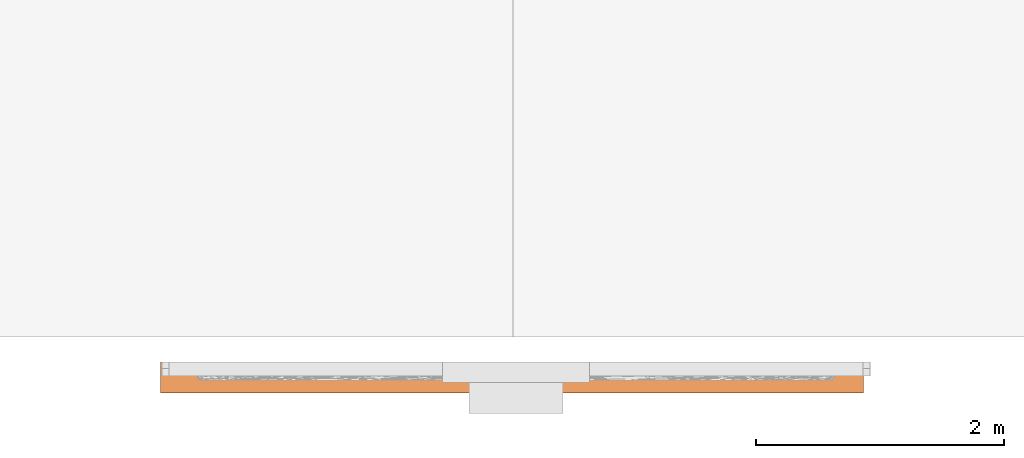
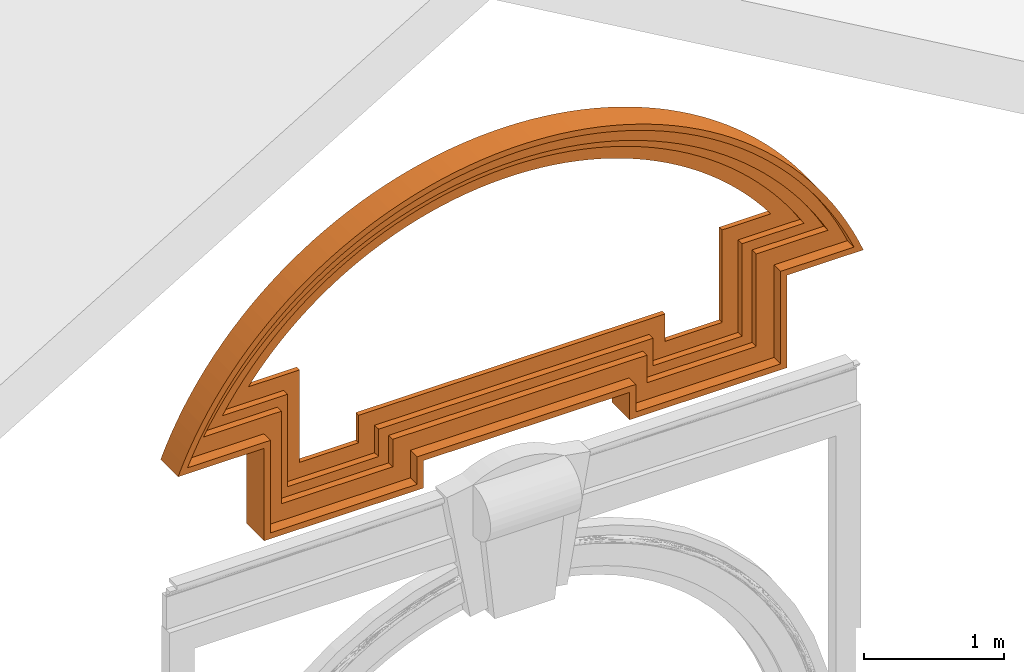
# One storey, part 2 of 4: 1 proxy.
"""IFC2X3 building model written with IfcOpenShell, lengths in metres."""

from ifc_helpers import new_model, entity, si_unit, converted_unit, derived_unit, direction, frame, frame_2d, origin, place, context, subcontext, project, spatial, polyline, circle_curve, parameter, trimmed, segment, composite_curve, outline, extrude, source, transform, mapped, material, type_object, type_shapes, element, save


model = new_model("IFC2X3")

# Units and contexts
model_context = context("Model", 3, precision=1e-05, world=origin(), true_north=direction((6.12303176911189e-17, 1.0)))
body_context = subcontext(model_context, "Body", "Model", "MODEL_VIEW")
ifc_project = project(units=[si_unit("LENGTHUNIT", "METRE"), si_unit("AREAUNIT", "SQUARE_METRE"), si_unit("VOLUMEUNIT", "CUBIC_METRE"), converted_unit("PLANEANGLEUNIT", "DEGREE", entity("IfcRatioMeasure", 0.0174532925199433), si_unit("PLANEANGLEUNIT", "RADIAN"), dimensions=[0, 0, 0, 0, 0, 0, 0]), si_unit("MASSUNIT", "GRAM", prefix="KILO"), derived_unit("MASSDENSITYUNIT", [(si_unit("MASSUNIT", "GRAM", prefix="KILO"), 1), (si_unit("LENGTHUNIT", "METRE"), -3)]), si_unit("TIMEUNIT", "SECOND"), si_unit("FREQUENCYUNIT", "HERTZ"), si_unit("THERMODYNAMICTEMPERATUREUNIT", "DEGREE_CELSIUS"), derived_unit("THERMALTRANSMITTANCEUNIT", [(si_unit("MASSUNIT", "GRAM", prefix="KILO"), 1), (si_unit("THERMODYNAMICTEMPERATUREUNIT", "KELVIN"), -1), (si_unit("TIMEUNIT", "SECOND"), -3)]), derived_unit("VOLUMETRICFLOWRATEUNIT", [(si_unit("LENGTHUNIT", "METRE"), 3), (si_unit("TIMEUNIT", "SECOND"), -1)]), si_unit("ELECTRICCURRENTUNIT", "AMPERE"), si_unit("ELECTRICVOLTAGEUNIT", "VOLT"), si_unit("POWERUNIT", "WATT"), si_unit("FORCEUNIT", "NEWTON", prefix="KILO"), si_unit("ILLUMINANCEUNIT", "LUX"), si_unit("LUMINOUSFLUXUNIT", "LUMEN"), si_unit("LUMINOUSINTENSITYUNIT", "CANDELA"), derived_unit("USERDEFINED", [(si_unit("MASSUNIT", "GRAM", prefix="KILO"), -1), (si_unit("LENGTHUNIT", "METRE"), -2), (si_unit("TIMEUNIT", "SECOND"), 3), (si_unit("LUMINOUSFLUXUNIT", "LUMEN"), 1)]), derived_unit("LINEARVELOCITYUNIT", [(si_unit("LENGTHUNIT", "METRE"), 1), (si_unit("TIMEUNIT", "SECOND"), -1)]), si_unit("PRESSUREUNIT", "PASCAL"), derived_unit("USERDEFINED", [(si_unit("LENGTHUNIT", "METRE"), -2), (si_unit("MASSUNIT", "GRAM", prefix="KILO"), 1), (si_unit("TIMEUNIT", "SECOND"), -2)])], contexts=[model_context])

# Site, building, storey
site_placement = place(None, origin())
site = spatial("IfcSite", under=ifc_project, at=site_placement, Name="Default", CompositionType="ELEMENT")
building_placement = place(site_placement, origin())
building = spatial("IfcBuilding", under=site, at=building_placement, CompositionType="ELEMENT")
storey_placement = place(building_placement, frame((0.0, 0.0, 23.3294157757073)))
storey = spatial("IfcBuildingStorey", under=building, at=storey_placement, Name="Livello 3", CompositionType="ELEMENT", Elevation=23.3294157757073)

# Proxy
ifc_material = material(Name="Piperno")
building_element_proxy_type = type_object("IfcBuildingElementProxyType", Name="Timpano", PredefinedType="NOTDEFINED", material=ifc_material)
shared_shape = source(origin(), body_context, "Body", "SweptSolid", [
    extrude(outline(composite_curve([segment(polyline([(-0.371411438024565, 1.87878861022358), (-0.371422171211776, 1.12584482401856)]), True, "CONTINUOUS"), segment(polyline([(-0.371422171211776, 1.12584482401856), (-0.131227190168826, 1.12584482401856)]), True, "CONTINUOUS"), segment(polyline([(-0.131227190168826, 1.12584482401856), (-0.131259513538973, -1.1416718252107)]), True, "CONTINUOUS"), segment(polyline([(-0.131259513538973, -1.1416718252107), (-0.371454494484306, -1.14166497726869)]), True, "CONTINUOUS"), segment(polyline([(-0.371454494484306, -1.14166497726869), (-0.371464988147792, -1.87780593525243)]), True, "CONTINUOUS"), segment(polyline([(-0.371464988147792, -1.87780593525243), (0.43703307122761, -1.87782898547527)]), True, "CONTINUOUS"), segment(polyline([(0.43703307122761, -1.87782898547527), (0.437025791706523, -2.38849464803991)]), True, "CONTINUOUS"), segment(trimmed(circle_curve(frame_2d((-1.03535011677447, 0.0148734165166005), x_axis=(0.522417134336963, 0.85269005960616)), 2.81852246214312), [parameter(242.987422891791)], [parameter(0.0)], True, "PARAMETER"), True, "CONTINUOUS"), segment(polyline([(0.437094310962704, 2.41819950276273), (0.4370866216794, 1.87878861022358)]), True, "CONTINUOUS"), segment(polyline([(0.4370866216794, 1.87878861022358), (-0.371411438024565, 1.87878861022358)]), True, "CONTINUOUS")], self_intersect=False), holes=[composite_curve([segment(polyline([(0.00146077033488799, 1.25853089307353), (-0.238734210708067, 1.25853089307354)]), True, "CONTINUOUS"), segment(polyline([(-0.238734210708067, 1.25853089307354), (-0.238727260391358, 1.74610254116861)]), True, "CONTINUOUS"), segment(polyline([(-0.238727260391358, 1.74610254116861), (0.569770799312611, 1.7461025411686)]), True, "CONTINUOUS"), segment(polyline([(0.569770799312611, 1.7461025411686), (0.569776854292, 2.17086538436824)]), True, "CONTINUOUS"), segment(trimmed(circle_curve(frame_2d((-1.04727540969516, 0.0114047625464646), x_axis=(0.599396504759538, 0.800452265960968)), 2.69780062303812), [parameter(253.651741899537)], [parameter(0.0)], True, "PARAMETER"), False, "CONTINUOUS"), segment(polyline([(0.569715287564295, -2.14810196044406), (0.569721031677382, -1.7451466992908)]), True, "CONTINUOUS"), segment(polyline([(0.569721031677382, -1.7451466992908), (-0.238777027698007, -1.74512364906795)]), True, "CONTINUOUS"), segment(polyline([(-0.238777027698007, -1.74512364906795), (-0.238770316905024, -1.27435482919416)]), True, "CONTINUOUS"), segment(polyline([(-0.238770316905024, -1.27435482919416), (0.00142466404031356, -1.27436167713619)]), True, "CONTINUOUS"), segment(polyline([(0.00142466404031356, -1.27436167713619), (0.00146077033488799, 1.25853089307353)]), True, "CONTINUOUS")], self_intersect=False)]), frame((-0.00791537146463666, -0.0408915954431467, 0.361031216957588), z_axis=(0.0, -1.0, 0.0), x_axis=(-1.42549648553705e-05, 0.0, 1.0)), (0.0, 0.0, -1.0), 0.0408915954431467),
    extrude(outline(composite_curve([segment(polyline([(-0.371410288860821, 1.95940359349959), (-0.371423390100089, 1.04033859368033)]), True, "CONTINUOUS"), segment(polyline([(-0.371423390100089, 1.04033859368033), (-0.131228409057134, 1.04033859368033)]), True, "CONTINUOUS"), segment(polyline([(-0.131228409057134, 1.04033859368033), (-0.131258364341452, -1.06105447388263)]), True, "CONTINUOUS"), segment(polyline([(-0.131258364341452, -1.06105447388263), (-0.371453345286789, -1.06104762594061)]), True, "CONTINUOUS"), segment(polyline([(-0.371453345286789, -1.06104762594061), (-0.371466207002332, -1.9633097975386)]), True, "CONTINUOUS"), segment(polyline([(-0.371466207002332, -1.9633097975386), (0.437031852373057, -1.96333284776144)]), True, "CONTINUOUS"), segment(polyline([(0.437031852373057, -1.96333284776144), (0.437023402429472, -2.55610481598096)]), True, "CONTINUOUS"), segment(trimmed(circle_curve(frame_2d((-1.00852043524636, 0.0246507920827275), x_axis=(0.488710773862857, 0.872445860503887)), 2.95802239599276), [parameter(238.510125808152)], [parameter(360.0)], True, "PARAMETER"), True, "CONTINUOUS"), segment(polyline([(0.437096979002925, 2.6053651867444), (0.437087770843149, 1.95940359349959)]), True, "CONTINUOUS"), segment(polyline([(0.437087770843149, 1.95940359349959), (-0.371410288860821, 1.95940359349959)]), True, "CONTINUOUS")], self_intersect=False), holes=[composite_curve([segment(polyline([(-0.288350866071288, 1.87634298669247), (0.520147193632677, 1.87634298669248)]), True, "CONTINUOUS"), segment(polyline([(0.520147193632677, 1.87634298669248), (0.520154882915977, 2.41575387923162)]), True, "CONTINUOUS"), segment(trimmed(circle_curve(frame_2d((-0.95228954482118, 0.0124277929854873), x_axis=(0.522417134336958, 0.852690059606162)), 2.81852246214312), [parameter(242.987422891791)], [parameter(0.0)], True, "PARAMETER"), False, "CONTINUOUS"), segment(polyline([(0.520086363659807, -2.39094027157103), (0.520093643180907, -1.88027460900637)]), True, "CONTINUOUS"), segment(polyline([(0.520093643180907, -1.88027460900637), (-0.288404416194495, -1.88025155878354)]), True, "CONTINUOUS"), segment(polyline([(-0.288404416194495, -1.88025155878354), (-0.288393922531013, -1.1441106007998)]), True, "CONTINUOUS"), segment(polyline([(-0.288393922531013, -1.1441106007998), (-0.0481989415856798, -1.14411744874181)]), True, "CONTINUOUS"), segment(polyline([(-0.0481989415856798, -1.14411744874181), (-0.048166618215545, 1.12339920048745)]), True, "CONTINUOUS"), segment(polyline([(-0.048166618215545, 1.12339920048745), (-0.288361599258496, 1.12339920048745)]), True, "CONTINUOUS"), segment(polyline([(-0.288361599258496, 1.12339920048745), (-0.288350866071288, 1.87634298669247)]), True, "CONTINUOUS")], self_intersect=False)]), frame((-0.0103598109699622, -0.0971082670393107, 0.277970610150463), z_axis=(0.0, -1.0, 0.0), x_axis=(-1.4254964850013e-05, 0.0, 1.0)), (0.0, 0.0, -1.0), 0.0971082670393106),
    extrude(outline(composite_curve([segment(polyline([(-0.371408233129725, 2.10361517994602), (-0.37142551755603, 0.891095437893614)]), True, "CONTINUOUS"), segment(polyline([(-0.37142551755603, 0.891095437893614), (-0.131230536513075, 0.891095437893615)]), True, "CONTINUOUS"), segment(polyline([(-0.131230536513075, 0.891095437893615), (-0.131256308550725, -0.916838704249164)]), True, "CONTINUOUS"), segment(polyline([(-0.131256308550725, -0.916838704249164), (-0.371451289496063, -0.916831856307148)]), True, "CONTINUOUS"), segment(polyline([(-0.371451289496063, -0.916831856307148), (-0.371468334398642, -2.11254877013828)]), True, "CONTINUOUS"), segment(polyline([(-0.371468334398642, -2.11254877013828), (0.437029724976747, -2.11257182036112)]), True, "CONTINUOUS"), segment(polyline([(0.437029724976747, -2.11257182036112), (0.437021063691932, -2.7201695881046)]), True, "CONTINUOUS"), segment(trimmed(circle_curve(frame_2d((-0.761753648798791, 0.0347020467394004), x_axis=(0.399033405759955, 0.916936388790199)), 3.00439320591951), [parameter(227.033898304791)], [parameter(5.08888749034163e-14)], True, "PARAMETER"), True, "CONTINUOUS"), segment(polyline([(0.437099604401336, 2.78953950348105), (0.437089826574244, 2.10361517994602)]), True, "CONTINUOUS"), segment(polyline([(0.437089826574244, 2.10361517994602), (-0.371408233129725, 2.10361517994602)]), True, "CONTINUOUS")], self_intersect=False), holes=[composite_curve([segment(polyline([(-0.224682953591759, 1.95688780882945), (0.583815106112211, 1.95688780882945)]), True, "CONTINUOUS"), segment(polyline([(0.583815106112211, 1.95688780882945), (0.583824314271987, 2.60284940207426)]), True, "CONTINUOUS"), segment(trimmed(circle_curve(frame_2d((-0.861793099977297, 0.0221350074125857), x_axis=(0.488710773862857, 0.872445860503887)), 2.95802239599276), [parameter(238.510125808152)], [parameter(0.0)], True, "PARAMETER"), False, "CONTINUOUS"), segment(polyline([(0.583750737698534, -2.5586206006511), (0.583759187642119, -1.96584863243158)]), True, "CONTINUOUS"), segment(polyline([(0.583759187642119, -1.96584863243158), (-0.224738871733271, -1.96582558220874)]), True, "CONTINUOUS"), segment(polyline([(-0.224738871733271, -1.96582558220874), (-0.224726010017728, -1.06356341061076)]), True, "CONTINUOUS"), segment(polyline([(-0.224726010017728, -1.06356341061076), (0.0154689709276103, -1.06357025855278)]), True, "CONTINUOUS"), segment(polyline([(0.0154689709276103, -1.06357025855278), (0.0154989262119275, 1.03782280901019)]), True, "CONTINUOUS"), segment(polyline([(0.0154989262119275, 1.03782280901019), (-0.224696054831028, 1.03782280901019)]), True, "CONTINUOUS"), segment(polyline([(-0.224696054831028, 1.03782280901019), (-0.224682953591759, 1.95688780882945)]), True, "CONTINUOUS")], self_intersect=False)]), frame((-0.0128735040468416, -0.15568973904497, 0.131243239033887), z_axis=(0.0, -1.0, 0.0), x_axis=(-1.4254964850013e-05, 0.0, 1.0)), (0.0, 0.0, -1.0), 0.15568973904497),
    extrude(outline(composite_curve([segment(trimmed(circle_curve(frame_2d((0.0346911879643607, 0.710209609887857), x_axis=(0.926853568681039, -0.375423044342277)), 3.0559377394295), [parameter(224.100923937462)], [parameter(360.0)], True, "PARAMETER"), True, "CONTINUOUS"), segment(polyline([(2.86709798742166, -0.437059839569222), (2.15516520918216, -0.43705983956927)]), True, "CONTINUOUS"), segment(polyline([(2.15516520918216, -0.43705983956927), (2.15515368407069, 0.371438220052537)]), True, "CONTINUOUS"), segment(polyline([(2.15515368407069, 0.371438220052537), (0.839544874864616, 0.371438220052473)]), True, "CONTINUOUS"), segment(polyline([(0.839544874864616, 0.371438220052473), (0.839548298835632, 0.131243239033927)]), True, "CONTINUOUS"), segment(polyline([(0.839548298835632, 0.131243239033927), (-0.865295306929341, 0.131243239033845)]), True, "CONTINUOUS"), segment(polyline([(-0.865295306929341, 0.131243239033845), (-0.865291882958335, 0.371438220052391)]), True, "CONTINUOUS"), segment(polyline([(-0.865291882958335, 0.371438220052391), (-2.16409786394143, 0.371438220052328)]), True, "CONTINUOUS"), segment(polyline([(-2.16409786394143, 0.371438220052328), (-2.16410938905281, -0.437059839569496)]), True, "CONTINUOUS"), segment(polyline([(-2.16410938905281, -0.437059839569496), (-2.79771561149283, -0.437059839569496)]), True, "CONTINUOUS")], self_intersect=False), holes=[composite_curve([segment(polyline([(-2.72016335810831, -0.488604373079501), (-2.11256559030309, -0.488604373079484)]), True, "CONTINUOUS"), segment(polyline([(-2.11256559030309, -0.488604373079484), (-2.11255406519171, 0.31989368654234)]), True, "CONTINUOUS"), segment(polyline([(-2.11255406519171, 0.31989368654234), (-0.916837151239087, 0.319893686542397)]), True, "CONTINUOUS"), segment(polyline([(-0.916837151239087, 0.319893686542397), (-0.91684057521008, 0.0796987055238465)]), True, "CONTINUOUS"), segment(polyline([(-0.91684057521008, 0.0796987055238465), (0.891093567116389, 0.0796987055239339)]), True, "CONTINUOUS"), segment(polyline([(0.891093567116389, 0.0796987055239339), (0.891090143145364, 0.319893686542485)]), True, "CONTINUOUS"), segment(polyline([(0.891090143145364, 0.319893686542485), (2.10360988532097, 0.319893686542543)]), True, "CONTINUOUS"), segment(polyline([(2.10360988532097, 0.319893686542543), (2.10362141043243, -0.488604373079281)]), True, "CONTINUOUS"), segment(polyline([(2.10362141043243, -0.488604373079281), (2.78954573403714, -0.488604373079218)]), True, "CONTINUOUS"), segment(trimmed(circle_curve(frame_2d((0.0346911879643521, 0.710209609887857), x_axis=(0.916942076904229, -0.399020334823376)), 3.00439320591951), [parameter(227.033898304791)], [parameter(5.08888749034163e-14)], True, "PARAMETER"), False, "CONTINUOUS")], self_intersect=False)]), frame((-0.0128735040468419, -0.25, 0.0796987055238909), z_axis=(0.0, -1.0, 0.0), x_axis=(-1.0, 0.0, 0.0)), (0.0, 0.0, -1.0), 0.25),
])
type_shapes(building_element_proxy_type, [shared_shape])
proxy_placement = place(storey_placement, frame((-0.0361733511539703, 1.26337273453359, -0.738054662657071)))
element("IfcBuildingElementProxy", 1, at=proxy_placement, inside=storey, type_object=building_element_proxy_type, material=ifc_material, Name="Timpano:Timpano", ObjectType="Timpano", context=body_context, shape_type="MappedRepresentation", body=[
    mapped(shared_shape, transform((0.0, 0.0, 0.0), scale=1.0)),
])

save(model, "model.ifc")
